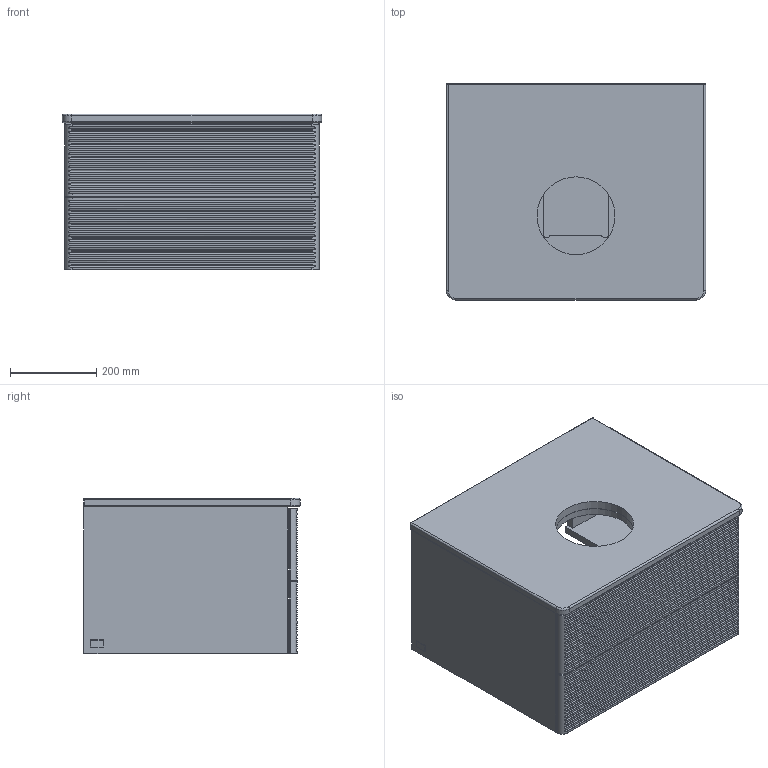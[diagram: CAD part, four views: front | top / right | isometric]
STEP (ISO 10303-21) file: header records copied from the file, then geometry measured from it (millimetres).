
FILE_DESCRIPTION((' '),'2;1');
FILE_NAME('M:\DWG\MÖBEL\3D-Zeichnungen Typen\Antao\STP vereinfacht\K181_L181.stp','2023-04-05T09:52:19',(' '),(' '),' ','ACIS',' ');
FILE_SCHEMA(('CONFIG_CONTROL_DESIGN'));
Length unit declared in the file: millimetre
Products named in the file (16): M:\DWG\MÖBEL\3D-Zeichnungen Typen\Antao\STP vereinfacht\K181_L181.stp; Körper1; Körper2; Körper3; Körper4; Körper5; Körper6; Körper7; Körper8; Körper9; Körper10; Körper11; Körper12; Körper13; Körper14; Körper15
Assembly tree (15 placements, depth 2):
  M:\DWG\MÖBEL\3D-Zeichnungen Typen\Antao\STP vereinfacht\K181_L181.stp
    Körper1
    Körper2
    Körper3
    Körper4
    Körper5
    Körper6
    Körper7
    Körper8
    Körper9
    Körper10
    Körper11
    Körper12
    Körper13
    Körper14
    Körper15
Bounding box: 600 x 500 x 360 mm (x, y, z)
Volume: 27979563.7 mm3; surface area: 3751289.7 mm2
Topology: 15 solids, 15 shells, 321 faces, 817 edges, 522 vertices
Faces by surface type: plane 240, cylinder 61, cone 12, torus 4, sphere 4
Full cylindrical faces by diameter (mm): 35 x1, 180 x2
Entity records: 15261 total; most frequent: CARTESIAN_POINT 5236, DIRECTION 1652, ORIENTED_EDGE 1620, EDGE_CURVE 810, AXIS2_PLACEMENT_3D 554, VECTOR 544, LINE 544, VERTEX_POINT 522
